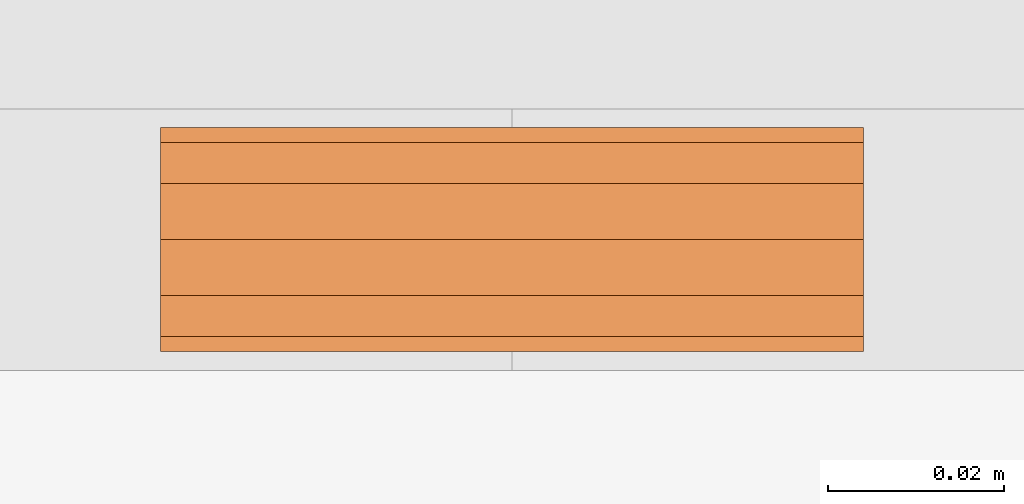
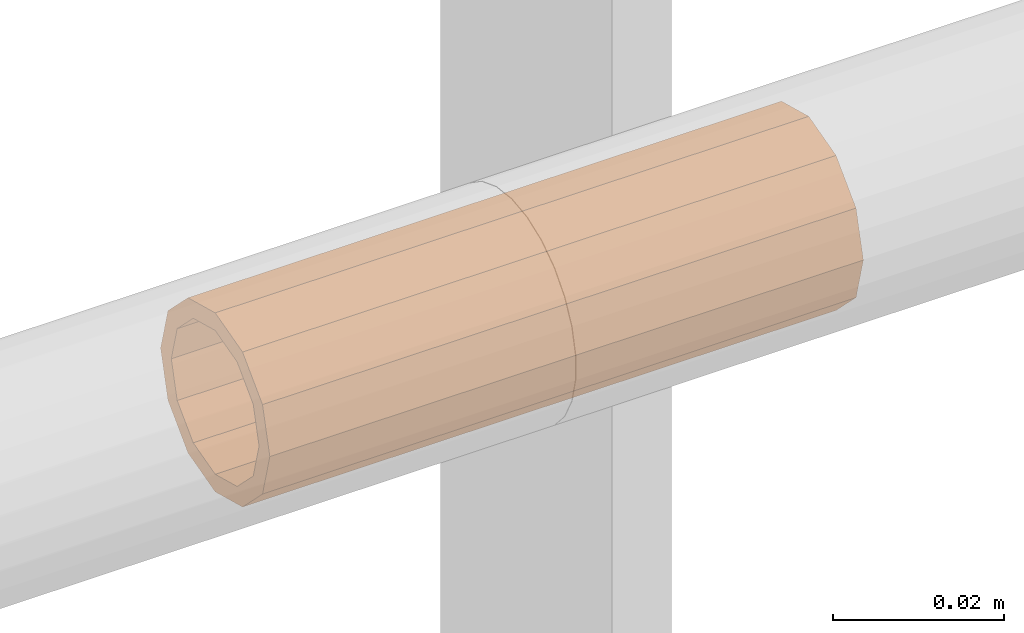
# One storey, part 145 of 145: 1 proxy.
"""IFC2X3 building model written with IfcOpenShell, lengths in millimetres."""

from ifc_helpers import new_model, entity, si_unit, converted_unit, origin_with_axes, place, context, project, spatial, faceted_brep, material, element, save


model = new_model("IFC2X3")

# Units and contexts
model_context = context("Model", 3, precision=1e-09, world=origin_with_axes())
ifc_project = project(units=[si_unit("LENGTHUNIT", "METRE", prefix="MILLI"), si_unit("AREAUNIT", "SQUARE_METRE"), si_unit("VOLUMEUNIT", "CUBIC_METRE"), converted_unit("PLANEANGLEUNIT", "DEGREE", entity("IfcPlaneAngleMeasure", 0.01745329), si_unit("PLANEANGLEUNIT", "RADIAN"), dimensions=[0, 0, 0, 0, 0, 0, 0])], contexts=[model_context])

# Site, building, storey
site_placement = place(None, origin_with_axes())
site = spatial("IfcSite", under=ifc_project, at=site_placement, Name="BZ1 Grund- und Mittelschule 85716 Unterschlei?heim", CompositionType="ELEMENT")
building_placement = place(site_placement, origin_with_axes())
building = spatial("IfcBuilding", under=site, at=building_placement, Name="Struktur 1", CompositionType="ELEMENT")
storey_placement = place(building_placement, origin_with_axes())
storey = spatial("IfcBuildingStorey", under=building, at=storey_placement, Name="Default Storey", CompositionType="ELEMENT", Elevation=0.0)

# Proxy
ifc_material = material(Name="1.4301")
proxy_placement = place(None, origin_with_axes())
element("IfcBuildingElementProxy", 1, at=proxy_placement, inside=storey, material=ifc_material, ObjectType="-", context=model_context, shape_type="Brep", body=[
    faceted_brep([(21268.141490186, -299.752, 2398.636364), (21268.141490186, -301.460176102, 2405.011364), (21268.141490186, -306.127, 2409.678187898), (21268.141490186, -312.502, 2411.386364), (21268.141490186, -318.877, 2409.678187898), (21268.141490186, -323.543823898, 2405.011364), (21268.141490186, -325.252, 2398.636364), (21268.141490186, -323.543823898, 2392.261364), (21268.141490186, -318.877, 2387.594540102), (21268.141490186, -312.502, 2385.886364), (21268.141490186, -306.127, 2387.594540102), (21268.141490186, -301.460176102, 2392.261364), (21268.141490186, -307.377, 2407.513124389), (21268.141490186, -303.625239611, 2403.761364), (21268.141490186, -302.252, 2398.636364), (21268.141490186, -303.625239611, 2393.511364), (21268.141490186, -307.377, 2389.759603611), (21268.141490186, -312.502, 2388.386364), (21268.141490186, -317.627, 2389.759603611), (21268.141490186, -321.378760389, 2393.511364), (21268.141490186, -322.752, 2398.636364), (21268.141490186, -321.378760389, 2403.761364), (21268.141490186, -317.627, 2407.513124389), (21268.141490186, -312.502, 2408.886364), (21188.141490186, -299.752, 2398.636364), (21188.141490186, -301.460176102, 2392.261364), (21188.141490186, -306.127, 2387.594540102), (21188.141490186, -312.502, 2385.886364), (21188.141490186, -318.877, 2387.594540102), (21188.141490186, -323.543823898, 2392.261364), (21188.141490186, -325.252, 2398.636364), (21188.141490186, -323.543823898, 2405.011364), (21188.141490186, -318.877, 2409.678187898), (21188.141490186, -312.502, 2411.386364), (21188.141490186, -306.127, 2409.678187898), (21188.141490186, -301.460176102, 2405.011364), (21188.141490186, -307.377, 2389.759603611), (21188.141490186, -303.625239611, 2393.511364), (21188.141490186, -302.252, 2398.636364), (21188.141490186, -303.625239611, 2403.761364), (21188.141490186, -307.377, 2407.513124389), (21188.141490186, -312.502, 2408.886364), (21188.141490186, -317.627, 2407.513124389), (21188.141490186, -321.378760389, 2403.761364), (21188.141490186, -322.752, 2398.636364), (21188.141490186, -321.378760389, 2393.511364), (21188.141490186, -317.627, 2389.759603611), (21188.141490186, -312.502, 2388.386364)], [[[0, 1, 2, 3, 4, 5, 6, 7, 8, 9, 10, 11], [12, 13, 14, 15, 16, 17, 18, 19, 20, 21, 22, 23]], [[24, 25, 26, 27, 28, 29, 30, 31, 32, 33, 34, 35], [36, 37, 38, 39, 40, 41, 42, 43, 44, 45, 46, 47]], [[24, 0, 11, 25]], [[14, 38, 37, 15]], [[0, 24, 35, 1]], [[38, 14, 13, 39]], [[15, 37, 36, 16]], [[25, 11, 10, 26]], [[34, 2, 1, 35]], [[39, 13, 12, 40]], [[16, 36, 47, 17]], [[9, 27, 26, 10]], [[2, 34, 33, 3]], [[27, 9, 8, 28]], [[3, 33, 32, 4]], [[40, 12, 23, 41]], [[17, 47, 46, 18]], [[28, 8, 7, 29]], [[4, 32, 31, 5]], [[41, 23, 22, 42]], [[6, 30, 29, 7]], [[18, 46, 45, 19]], [[30, 6, 5, 31]], [[42, 22, 21, 43]], [[19, 45, 44, 20]], [[43, 21, 20, 44]]]),
])

save(model, "model.ifc")
